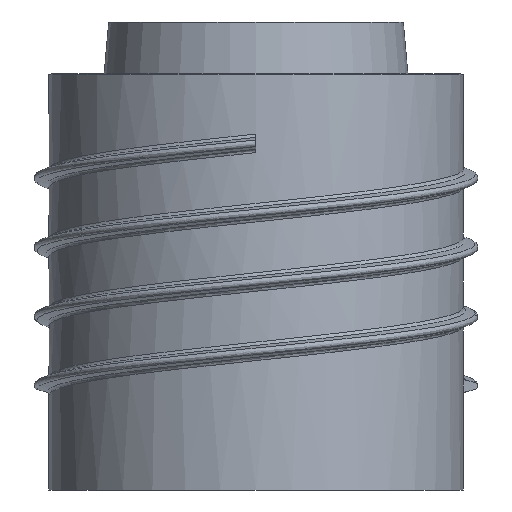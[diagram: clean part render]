
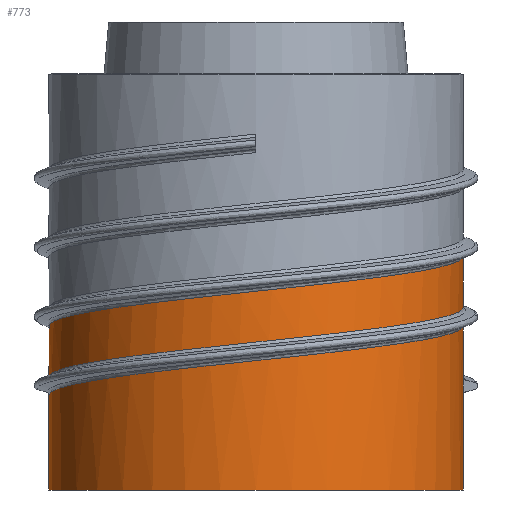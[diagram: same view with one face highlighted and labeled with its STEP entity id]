
A CAD part, left-side view. The second image highlights one B-rep face of the part: STEP entity #773.
In plain terms, the highlighted cylindrical face has radius 5.975 mm (diameter 11.95 mm), a full revolution.
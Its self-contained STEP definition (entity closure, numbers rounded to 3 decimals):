
#57=CIRCLE('',#844,5.975);
#58=CIRCLE('',#845,5.975);
#103=FACE_OUTER_BOUND('',#147,.T.);
#147=EDGE_LOOP('',(#627,#628,#629,#630,#631,#632,#633,#634,#635,#636,#637));
#209=B_SPLINE_CURVE_WITH_KNOTS('',3,(#3809,#3810,#3811,#3812,#3813,#3814,
#3815,#3816),.UNSPECIFIED.,.F.,.F.,(4,1,1,1,1,4),(0.,0.463,
0.926,1.851,2.777,3.142),
 .UNSPECIFIED.);
#211=B_SPLINE_CURVE_WITH_KNOTS('',3,(#3925,#3926,#3927,#3928,#3929,#3930,
#3931,#3932),.UNSPECIFIED.,.F.,.F.,(4,1,1,1,1,4),(0.,0.463,
0.926,1.851,2.777,3.142),
 .UNSPECIFIED.);
#212=B_SPLINE_CURVE_WITH_KNOTS('',3,(#4008,#4009,#4010,#4011,#4012,#4013,
#4014,#4015,#4016,#4017,#4018),.UNSPECIFIED.,.F.,.F.,(4,1,1,1,1,1,1,1,4),
(0.,0.463,0.926,1.851,2.777,
3.702,4.628,5.553,6.283),
 .UNSPECIFIED.);
#233=LINE('',#1575,#269);
#238=LINE('',#1637,#274);
#245=LINE('',#4004,#281);
#246=LINE('',#4020,#282);
#247=LINE('',#4024,#283);
#269=VECTOR('',#921,5.975);
#274=VECTOR('',#932,5.975);
#281=VECTOR('',#965,10.);
#282=VECTOR('',#970,5.975);
#283=VECTOR('',#975,10.);
#315=VERTEX_POINT('',#1573);
#316=VERTEX_POINT('',#1574);
#326=VERTEX_POINT('',#1635);
#327=VERTEX_POINT('',#1636);
#344=VERTEX_POINT('',#3808);
#347=VERTEX_POINT('',#3923);
#348=VERTEX_POINT('',#4007);
#349=VERTEX_POINT('',#4019);
#350=VERTEX_POINT('',#4021);
#407=EDGE_CURVE('',#315,#316,#233,.T.);
#419=EDGE_CURVE('',#326,#327,#238,.T.);
#445=EDGE_CURVE('',#344,#315,#209,.T.);
#450=EDGE_CURVE('',#347,#327,#211,.T.);
#453=EDGE_CURVE('',#347,#344,#245,.T.);
#454=EDGE_CURVE('',#348,#316,#212,.T.);
#455=EDGE_CURVE('',#349,#348,#246,.T.);
#456=EDGE_CURVE('',#350,#349,#57,.T.);
#457=EDGE_CURVE('',#349,#350,#58,.T.);
#458=EDGE_CURVE('',#348,#326,#247,.T.);
#627=ORIENTED_EDGE('',*,*,#419,.T.);
#628=ORIENTED_EDGE('',*,*,#450,.F.);
#629=ORIENTED_EDGE('',*,*,#453,.T.);
#630=ORIENTED_EDGE('',*,*,#445,.T.);
#631=ORIENTED_EDGE('',*,*,#407,.T.);
#632=ORIENTED_EDGE('',*,*,#454,.F.);
#633=ORIENTED_EDGE('',*,*,#455,.F.);
#634=ORIENTED_EDGE('',*,*,#456,.F.);
#635=ORIENTED_EDGE('',*,*,#457,.F.);
#636=ORIENTED_EDGE('',*,*,#455,.T.);
#637=ORIENTED_EDGE('',*,*,#458,.T.);
#744=CYLINDRICAL_SURFACE('',#843,5.975);
#773=ADVANCED_FACE('',(#103),#744,.T.);
#843=AXIS2_PLACEMENT_3D('',#4006,#968,#969);
#844=AXIS2_PLACEMENT_3D('',#4022,#971,#972);
#845=AXIS2_PLACEMENT_3D('',#4023,#973,#974);
#921=DIRECTION('',(0.,0.,1.));
#932=DIRECTION('',(0.,0.,1.));
#965=DIRECTION('',(0.,0.,1.));
#968=DIRECTION('center_axis',(0.,0.,-1.));
#969=DIRECTION('ref_axis',(0.,1.,0.));
#970=DIRECTION('',(0.,0.,1.));
#971=DIRECTION('center_axis',(0.,0.,-1.));
#972=DIRECTION('ref_axis',(0.,1.,0.));
#973=DIRECTION('center_axis',(0.,0.,-1.));
#974=DIRECTION('ref_axis',(0.,1.,0.));
#975=DIRECTION('',(0.,0.,1.));
#1573=CARTESIAN_POINT('',(0.,-5.975,-6.733));
#1574=CARTESIAN_POINT('',(0.,-5.975,-5.267));
#1575=CARTESIAN_POINT('',(0.,-5.975,-11.5));
#1635=CARTESIAN_POINT('',(0.,-5.975,-8.733));
#1636=CARTESIAN_POINT('',(0.,-5.975,-7.267));
#1637=CARTESIAN_POINT('',(0.,-5.975,-11.5));
#3808=CARTESIAN_POINT('',(0.,5.975,-8.733));
#3809=CARTESIAN_POINT('Ctrl Pts',(0.,5.975,-8.733));
#3810=CARTESIAN_POINT('Ctrl Pts',(-0.922,5.975,-8.634));
#3811=CARTESIAN_POINT('Ctrl Pts',(-2.758,5.537,-8.438));
#3812=CARTESIAN_POINT('Ctrl Pts',(-5.693,3.129,-8.045));
#3813=CARTESIAN_POINT('Ctrl Pts',(-6.632,-1.902,-7.554));
#3814=CARTESIAN_POINT('Ctrl Pts',(-3.304,-5.53,-7.084));
#3815=CARTESIAN_POINT('Ctrl Pts',(-0.731,-5.973,
-6.81));
#3816=CARTESIAN_POINT('Ctrl Pts',(-0.002,-5.97,
-6.733));
#3923=CARTESIAN_POINT('',(0.,5.975,-9.267));
#3925=CARTESIAN_POINT('Ctrl Pts',(0.,5.975,-9.267));
#3926=CARTESIAN_POINT('Ctrl Pts',(-0.922,5.975,-9.169));
#3927=CARTESIAN_POINT('Ctrl Pts',(-2.758,5.537,-8.973));
#3928=CARTESIAN_POINT('Ctrl Pts',(-5.693,3.129,-8.58));
#3929=CARTESIAN_POINT('Ctrl Pts',(-6.632,-1.902,-8.089));
#3930=CARTESIAN_POINT('Ctrl Pts',(-3.304,-5.53,-7.619));
#3931=CARTESIAN_POINT('Ctrl Pts',(-0.731,-5.973,
-7.345));
#3932=CARTESIAN_POINT('Ctrl Pts',(-0.002,-5.97,
-7.267));
#4004=CARTESIAN_POINT('',(0.,5.975,-11.5));
#4006=CARTESIAN_POINT('Origin',(0.,0.,-11.5));
#4007=CARTESIAN_POINT('',(0.,-5.975,-9.267));
#4008=CARTESIAN_POINT('Ctrl Pts',(0.,-5.975,-9.267));
#4009=CARTESIAN_POINT('Ctrl Pts',(0.922,-5.975,-9.169));
#4010=CARTESIAN_POINT('Ctrl Pts',(2.758,-5.537,-8.973));
#4011=CARTESIAN_POINT('Ctrl Pts',(5.693,-3.129,-8.58));
#4012=CARTESIAN_POINT('Ctrl Pts',(6.632,1.902,-8.089));
#4013=CARTESIAN_POINT('Ctrl Pts',(2.462,6.447,-7.5));
#4014=CARTESIAN_POINT('Ctrl Pts',(-3.666,5.842,-6.911));
#4015=CARTESIAN_POINT('Ctrl Pts',(-6.874,0.585,-6.321));
#4016=CARTESIAN_POINT('Ctrl Pts',(-4.761,-4.737,-5.774));
#4017=CARTESIAN_POINT('Ctrl Pts',(-1.449,-5.966,-5.422));
#4018=CARTESIAN_POINT('Ctrl Pts',(0.004,-5.976,
-5.267));
#4019=CARTESIAN_POINT('',(0.,-5.975,-12.));
#4020=CARTESIAN_POINT('',(0.,-5.975,-11.5));
#4021=CARTESIAN_POINT('',(0.,5.975,-12.));
#4022=CARTESIAN_POINT('Origin',(0.,0.,-12.));
#4023=CARTESIAN_POINT('Origin',(0.,0.,-12.));
#4024=CARTESIAN_POINT('',(0.,-5.975,-11.5));
